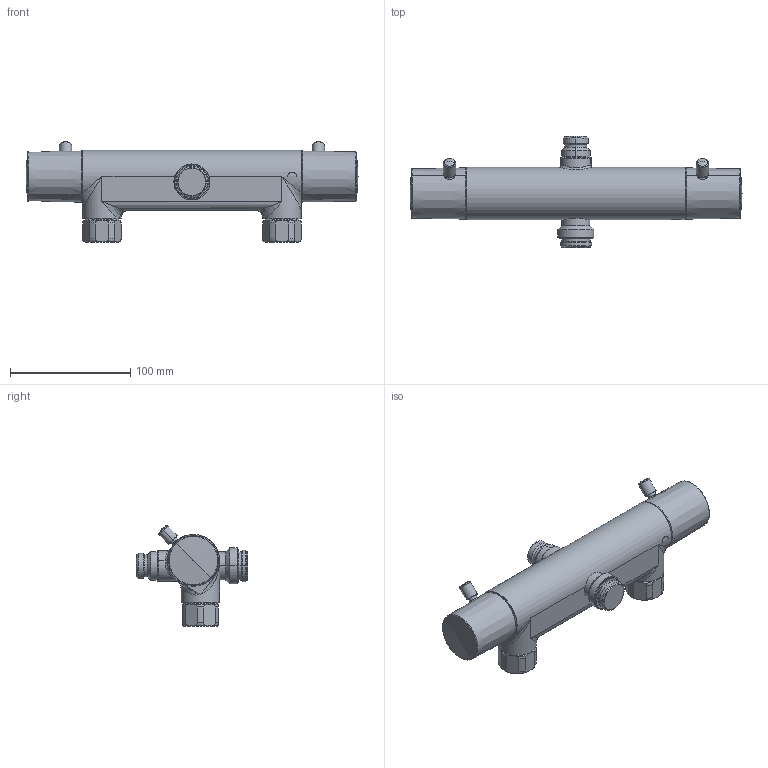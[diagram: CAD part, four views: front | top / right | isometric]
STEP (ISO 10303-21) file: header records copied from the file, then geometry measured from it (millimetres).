
FILE_DESCRIPTION((''),'2;1');
FILE_NAME('57491--00','2026-09-10T13:23:48',('simi1'),(''),'CREO PARAMETRIC BY PTC INC, 2022244','CREO PARAMETRIC BY PTC INC, 2022244','');
FILE_SCHEMA(('AUTOMOTIVE_DESIGN { 1 0 10303 214 1 1 1 1 }'));
Length unit declared in the file: millimetre
Products named in the file (1): 57491--00
Bounding box: 276.55 x 92.48 x 84.02 mm (x, y, z)
Surface area: 62159.7 mm2 (no closed solid volume)
Topology: 0 solids, 15 shells, 207 faces, 501 edges, 298 vertices
Faces by surface type: torus 58, cylinder 49, cone 37, plane 33, bspline 22, sphere 8
Entity records: 9050 total; most frequent: CARTESIAN_POINT 3406, DIRECTION 961, ORIENTED_EDGE 934, EDGE_CURVE 493, AXIS2_PLACEMENT_3D 424, VERTEX_POINT 298, CIRCLE 239, EDGE_LOOP 207
